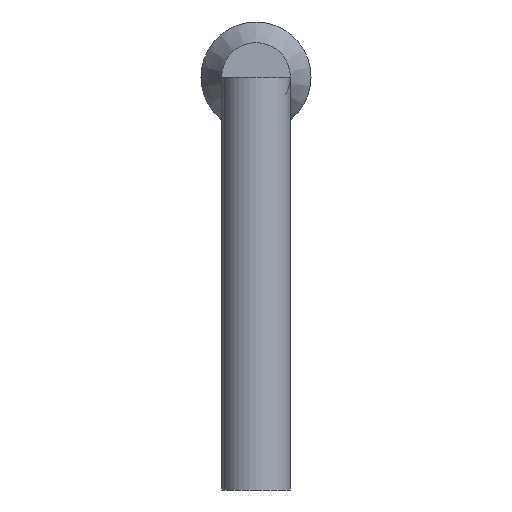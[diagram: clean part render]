
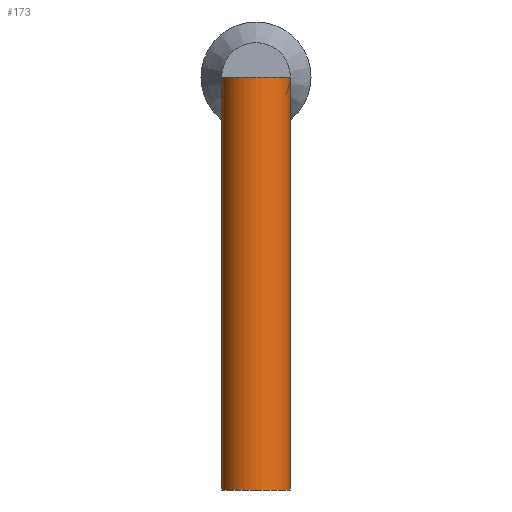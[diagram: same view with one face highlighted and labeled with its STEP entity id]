
A CAD part, left-side view. The second image highlights one B-rep face of the part: STEP entity #173.
In plain terms, the highlighted cylindrical face has radius 0.25 mm (diameter 0.5 mm), a full revolution.
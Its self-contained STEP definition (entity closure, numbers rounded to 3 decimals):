
#173 = ADVANCED_FACE('',(#174),#201,.T.);
#174 = FACE_BOUND('',#175,.T.);
#175 = EDGE_LOOP('',(#176,#185,#193,#200));
#176 = ORIENTED_EDGE('',*,*,#177,.F.);
#177 = EDGE_CURVE('',#178,#178,#180,.T.);
#178 = VERTEX_POINT('',#179);
#179 = CARTESIAN_POINT('',(-16.76,0.,-3.));
#180 = CIRCLE('',#181,0.25);
#181 = AXIS2_PLACEMENT_3D('',#182,#183,#184);
#182 = CARTESIAN_POINT('',(-16.51,0.,-3.));
#183 = DIRECTION('',(0.,0.,-1.));
#184 = DIRECTION('',(-1.,0.,-0.));
#185 = ORIENTED_EDGE('',*,*,#186,.F.);
#186 = EDGE_CURVE('',#187,#178,#189,.T.);
#187 = VERTEX_POINT('',#188);
#188 = CARTESIAN_POINT('',(-16.76,0.,0.));
#189 = LINE('',#190,#191);
#190 = CARTESIAN_POINT('',(-16.76,0.,0.));
#191 = VECTOR('',#192,1.);
#192 = DIRECTION('',(0.,0.,-1.));
#193 = ORIENTED_EDGE('',*,*,#194,.T.);
#194 = EDGE_CURVE('',#187,#187,#195,.T.);
#195 = CIRCLE('',#196,0.25);
#196 = AXIS2_PLACEMENT_3D('',#197,#198,#199);
#197 = CARTESIAN_POINT('',(-16.51,0.,0.));
#198 = DIRECTION('',(0.,0.,-1.));
#199 = DIRECTION('',(-1.,0.,-0.));
#200 = ORIENTED_EDGE('',*,*,#186,.T.);
#201 = CYLINDRICAL_SURFACE('',#202,0.25);
#202 = AXIS2_PLACEMENT_3D('',#203,#204,#205);
#203 = CARTESIAN_POINT('',(-16.51,0.,0.));
#204 = DIRECTION('',(0.,0.,-1.));
#205 = DIRECTION('',(-1.,0.,-0.));
